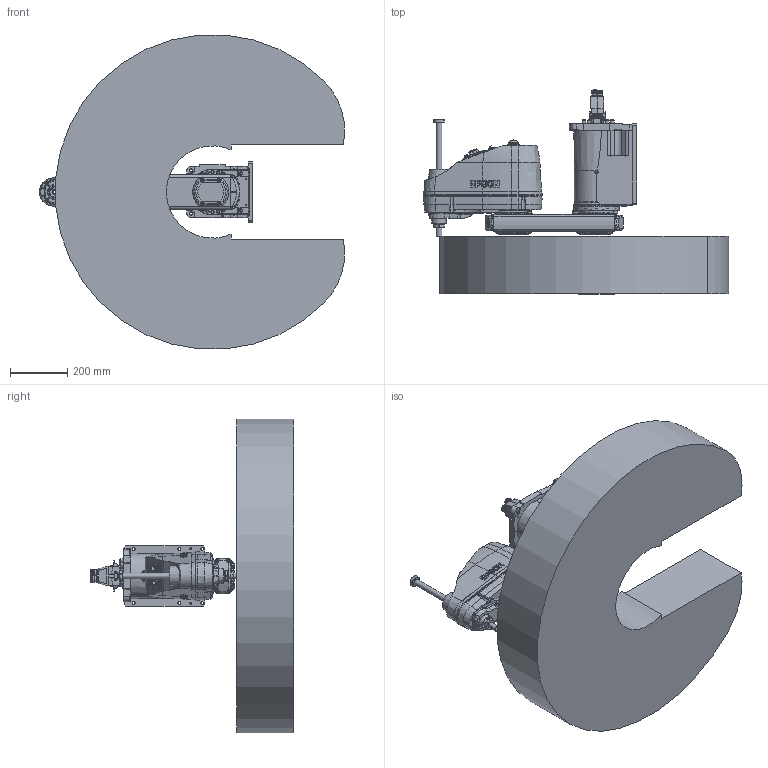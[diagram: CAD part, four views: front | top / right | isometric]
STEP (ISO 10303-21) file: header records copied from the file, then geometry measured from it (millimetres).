
FILE_DESCRIPTION( ( 'STEP AP214' ), '1' );
FILE_NAME( 'C:/Users/9607552/Desktop/GX8-B552SW_straight.stp', '2023-07-07T02:37:28', ( '' ), ( '' ), ' ', 'PARTsolutions', ' ' );
FILE_SCHEMA( ( 'AUTOMOTIVE_DESIGN { 1 0 10303 214 1 1 1 1 }' ) );
Length unit declared in the file: millimetre
Products named in the file (9): GX8-B552SWS-W; _B552SW_BASE; _B552SR; _B552SR_1; _B552SR_2; _B452S_J2; _B452SZA; _Straight-B; _GX8-21-B_WS
Assembly tree (10 placements, depth 2):
  GX8-B552SWS-W
    _B552SW_BASE
    _B552SR
    _B552SR_1  x2
    _B552SR_2  x2
    _B452S_J2
    _B452SZA
    _Straight-B
    _GX8-21-B_WS
Bounding box: 1066.99 x 711.85 x 1095.81 mm (x, y, z)
Volume: 167449824.1 mm3; surface area: 3482268.7 mm2
Topology: 10 solids, 10 shells, 2899 faces, 7099 edges, 4630 vertices
Faces by surface type: plane 1453, cylinder 931, cone 350, torus 122, bspline 37, sphere 6
Full cylindrical faces by diameter (mm): 1 x48, 1.18 x55, 2.261 x4, 2.459 x12, 3 x32, 3.242 x18, 3.3 x5, 3.9 x4, 4 x4, 4.2 x8, 4.5 x4, 4.8 x5, 5.34 x4, 5.5 x17, 6 x2, 6.2 x4, 6.647 x4, 6.8 x2, 7 x42, 8 x5, 8.5 x4, 9 x24, 10 x24, 11 x4, 11.2 x5, 11.5 x1, 12 x5, 12.25 x1, 13 x7, 13.2 x12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
Entity records: 103518 total; most frequent: CARTESIAN_POINT 19535, DIRECTION 12789, ORIENTED_EDGE 11830, EDGE_CURVE 5915, AXIS2_PLACEMENT_3D 4926, VERTEX_POINT 4255, EDGE_LOOP 3841, FACE_OUTER_BOUND 3198
